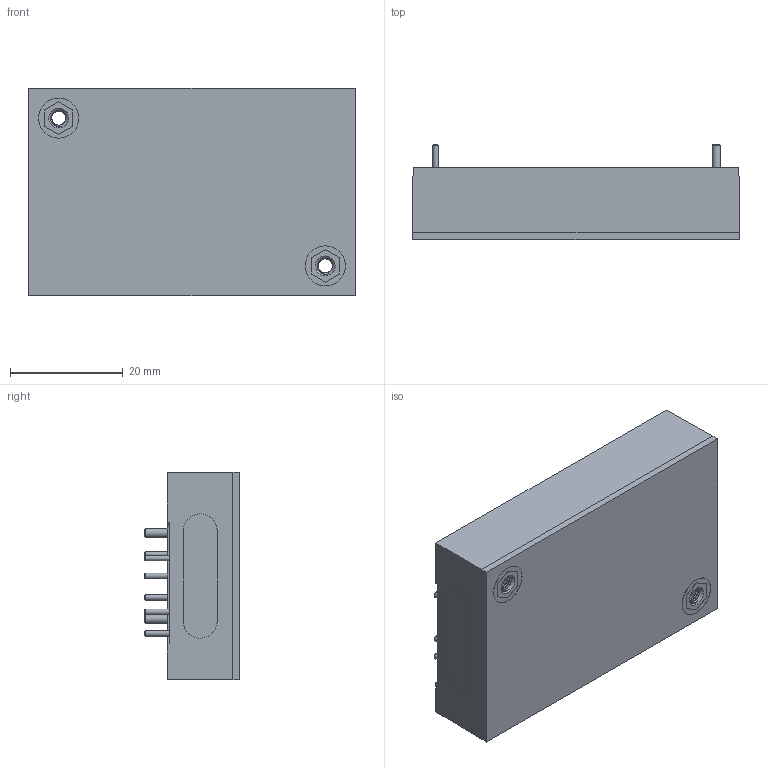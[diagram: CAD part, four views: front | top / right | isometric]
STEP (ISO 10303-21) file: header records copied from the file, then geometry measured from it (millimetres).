
FILE_DESCRIPTION (( 'STEP AP203' ), '1' );
FILE_NAME ('CQB75-300S 2024.11.14.STEP', '2024-11-14T02:54:39', ( '' ), ( '' ), 'SwSTEP 2.0', 'SolidWorks 2020', '' );
FILE_SCHEMA (( 'CONFIG_CONTROL_DESIGN' ));
Length unit declared in the file: millimetre
Products named in the file (1): CQB75-300S 2024.11.14
Bounding box: 57.9 x 16.9 x 36.8 mm (x, y, z)
Volume: 26867.2 mm3; surface area: 7453.3 mm2
Topology: 1 solids, 3 shells, 488 faces, 1237 edges, 823 vertices
Faces by surface type: plane 316, bspline 127, cylinder 33, cone 12
Full cylindrical faces by diameter (mm): 1 x6, 1.15 x6, 1.5 x2, 1.65 x2, 3.9 x2, 4.2 x4, 4.7 x2, 7.1 x2
Entity records: 25767 total; most frequent: CARTESIAN_POINT 14914, ORIENTED_EDGE 2382, DIRECTION 1730, EDGE_CURVE 1191, VECTOR 848, LINE 848, VERTEX_POINT 815, EDGE_LOOP 602
